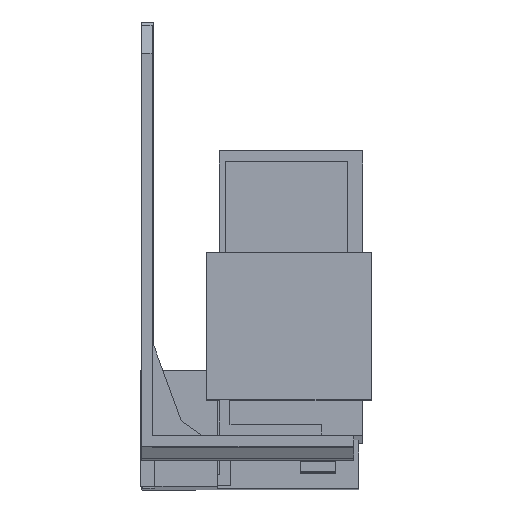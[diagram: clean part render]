
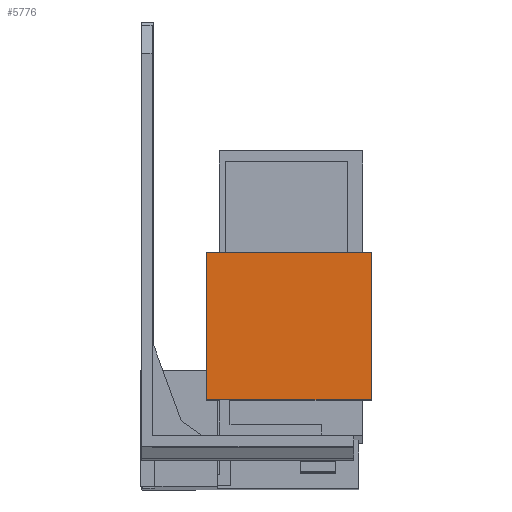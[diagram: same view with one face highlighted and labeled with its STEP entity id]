
A CAD part, front view. The second image highlights one B-rep face of the part: STEP entity #5776.
In plain terms, the highlighted planar face has unit normal (0, -1, 0.003).
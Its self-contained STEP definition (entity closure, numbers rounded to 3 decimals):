
#269 = AXIS2_PLACEMENT_3D ( 'NONE', #3053, #3059, #3060 ) ;
#802 = CARTESIAN_POINT ( 'NONE',  ( 32.7, -29.009, -40.322 ) ) ;
#803 = DIRECTION ( 'NONE',  ( 0., 0.003, 1. ) ) ;
#928 = CARTESIAN_POINT ( 'NONE',  ( 9.3, -29.009, -40.322 ) ) ;
#931 = DIRECTION ( 'NONE',  ( 1., 0., 0. ) ) ;
#1084 = CARTESIAN_POINT ( 'NONE',  ( 9.3, -29.009, -40.322 ) ) ;
#1085 = DIRECTION ( 'NONE',  ( 0., 0.003, 1. ) ) ;
#1118 = CARTESIAN_POINT ( 'NONE',  ( 9.3, -28.952, -19.322 ) ) ;
#1119 = DIRECTION ( 'NONE',  ( 1., 0., 0. ) ) ;
#1647 = CARTESIAN_POINT ( 'NONE',  ( 9.3, -28.952, -19.322 ) ) ;
#1648 = CARTESIAN_POINT ( 'NONE',  ( 32.7, -28.952, -19.322 ) ) ;
#1649 = CARTESIAN_POINT ( 'NONE',  ( 9.3, -29.009, -40.322 ) ) ;
#1650 = CARTESIAN_POINT ( 'NONE',  ( 32.7, -29.009, -40.322 ) ) ;
#2139 = LINE ( 'NONE', #802, #2140 ) ;
#2140 = VECTOR ( 'NONE', #803, 1000. ) ;
#2253 = LINE ( 'NONE', #928, #2257 ) ;
#2257 = VECTOR ( 'NONE', #931, 1000. ) ;
#2387 = LINE ( 'NONE', #1084, #2388 ) ;
#2388 = VECTOR ( 'NONE', #1085, 1000. ) ;
#2418 = LINE ( 'NONE', #1118, #2419 ) ;
#2419 = VECTOR ( 'NONE', #1119, 1000. ) ;
#3050 = PLANE ( 'NONE',  #269 ) ;
#3053 = CARTESIAN_POINT ( 'NONE',  ( 9.3, -29.009, -40.322 ) ) ;
#3059 = DIRECTION ( 'NONE',  ( 0., -1., 0.003 ) ) ;
#3060 = DIRECTION ( 'NONE',  ( -1., 0., 0. ) ) ;
#4547 = EDGE_LOOP ( 'NONE', ( #7070, #7069, #7068, #7067 ) ) ;
#5494 = FACE_OUTER_BOUND ( 'NONE', #4547, .T. ) ;
#5776 = ADVANCED_FACE ( 'NONE', ( #5494 ), #3050, .T. ) ;
#6640 = EDGE_CURVE ( 'NONE', #8075, #8073, #2139, .T. ) ;
#6699 = EDGE_CURVE ( 'NONE', #8074, #8075, #2253, .T. ) ;
#6770 = EDGE_CURVE ( 'NONE', #8074, #8072, #2387, .T. ) ;
#6786 = EDGE_CURVE ( 'NONE', #8072, #8073, #2418, .T. ) ;
#7067 = ORIENTED_EDGE ( 'NONE', *, *, #6640, .T. ) ;
#7068 = ORIENTED_EDGE ( 'NONE', *, *, #6699, .T. ) ;
#7069 = ORIENTED_EDGE ( 'NONE', *, *, #6770, .F. ) ;
#7070 = ORIENTED_EDGE ( 'NONE', *, *, #6786, .F. ) ;
#8072 = VERTEX_POINT ( 'NONE', #1647 ) ;
#8073 = VERTEX_POINT ( 'NONE', #1648 ) ;
#8074 = VERTEX_POINT ( 'NONE', #1649 ) ;
#8075 = VERTEX_POINT ( 'NONE', #1650 ) ;
